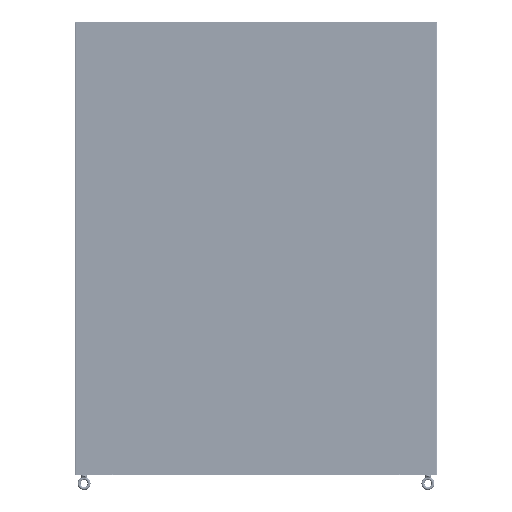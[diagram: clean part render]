
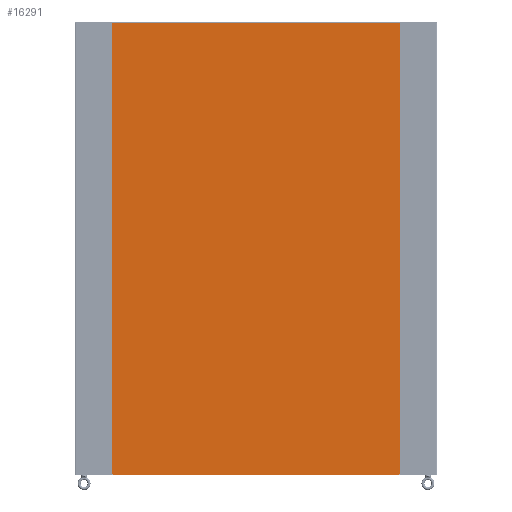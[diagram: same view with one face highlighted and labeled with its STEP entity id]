
A CAD part, left-side view. The second image highlights one B-rep face of the part: STEP entity #16291.
In plain terms, the highlighted planar face has unit normal (-1, 0, 0) as drawn and (0, 0, -1) by its records, which use the part's own axes.
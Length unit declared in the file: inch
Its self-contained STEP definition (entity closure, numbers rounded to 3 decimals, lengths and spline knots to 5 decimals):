
#16048=CARTESIAN_POINT('',(28.4375,44.8335,-0.104));
#16049=DIRECTION('',(0.,0.,-1.));
#16050=DIRECTION('',(0.,1.,0.));
#16051=AXIS2_PLACEMENT_3D('',#16048,#16049,#16050);
#16056=DIRECTION('',(-1.,0.,0.));
#16057=VECTOR('',#16056,56.875);
#16058=CARTESIAN_POINT('',(28.4375,44.896,-0.104));
#16059=LINE('',#16058,#16057);
#16063=CARTESIAN_POINT('',(-28.4375,44.8335,-0.104));
#16064=DIRECTION('',(0.,0.,-1.));
#16065=DIRECTION('',(-1.,0.,0.));
#16066=AXIS2_PLACEMENT_3D('',#16063,#16064,#16065);
#16071=DIRECTION('',(0.,-1.,0.));
#16072=VECTOR('',#16071,89.667);
#16073=CARTESIAN_POINT('',(-28.5,44.8335,-0.104));
#16074=LINE('',#16073,#16072);
#16078=CARTESIAN_POINT('',(-28.4375,-44.8335,-0.104));
#16079=DIRECTION('',(0.,0.,-1.));
#16080=DIRECTION('',(0.,-1.,0.));
#16081=AXIS2_PLACEMENT_3D('',#16078,#16079,#16080);
#16086=DIRECTION('',(1.,0.,0.));
#16087=VECTOR('',#16086,56.875);
#16088=CARTESIAN_POINT('',(-28.4375,-44.896,-0.104));
#16089=LINE('',#16088,#16087);
#16093=CARTESIAN_POINT('',(28.4375,-44.8335,-0.104));
#16094=DIRECTION('',(0.,0.,-1.));
#16095=DIRECTION('',(1.,0.,0.));
#16096=AXIS2_PLACEMENT_3D('',#16093,#16094,#16095);
#16101=DIRECTION('',(0.,1.,0.));
#16102=VECTOR('',#16101,89.667);
#16103=CARTESIAN_POINT('',(28.5,-44.8335,-0.104));
#16104=LINE('',#16103,#16102);
#16112=CARTESIAN_POINT('',(28.4375,44.896,-0.104));
#16113=VERTEX_POINT('',#16112);
#16114=CARTESIAN_POINT('',(28.5,44.8335,-0.104));
#16115=VERTEX_POINT('',#16114);
#16120=CARTESIAN_POINT('',(-28.5,44.8335,-0.104));
#16121=VERTEX_POINT('',#16120);
#16122=CARTESIAN_POINT('',(-28.4375,44.896,-0.104));
#16123=VERTEX_POINT('',#16122);
#16128=CARTESIAN_POINT('',(-28.4375,-44.896,-0.104));
#16129=VERTEX_POINT('',#16128);
#16130=CARTESIAN_POINT('',(-28.5,-44.8335,-0.104));
#16131=VERTEX_POINT('',#16130);
#16136=CARTESIAN_POINT('',(28.5,-44.8335,-0.104));
#16137=VERTEX_POINT('',#16136);
#16138=CARTESIAN_POINT('',(28.4375,-44.896,-0.104));
#16139=VERTEX_POINT('',#16138);
#16276=CARTESIAN_POINT('',(0.,0.,-0.104));
#16277=DIRECTION('',(0.,0.,1.));
#16278=DIRECTION('',(1.,0.,0.));
#16279=AXIS2_PLACEMENT_3D('',#16276,#16277,#16278);
#16280=PLANE('',#16279);
#16281=ORIENTED_EDGE('',*,*,#16172,.F.);
#16282=ORIENTED_EDGE('',*,*,#16188,.T.);
#16283=ORIENTED_EDGE('',*,*,#16201,.F.);
#16284=ORIENTED_EDGE('',*,*,#16216,.T.);
#16285=ORIENTED_EDGE('',*,*,#16229,.F.);
#16286=ORIENTED_EDGE('',*,*,#16244,.T.);
#16287=ORIENTED_EDGE('',*,*,#16257,.F.);
#16288=ORIENTED_EDGE('',*,*,#16269,.T.);
#16289=EDGE_LOOP('',(#16281,#16282,#16283,#16284,#16285,#16286,#16287,#16288));
#16290=FACE_OUTER_BOUND('',#16289,.F.);
#16052=CIRCLE('',#16051,0.0625);
#16067=CIRCLE('',#16066,0.0625);
#16082=CIRCLE('',#16081,0.0625);
#16097=CIRCLE('',#16096,0.0625);
#16172=EDGE_CURVE('',#16113,#16115,#16052,.T.);
#16188=EDGE_CURVE('',#16113,#16123,#16059,.T.);
#16201=EDGE_CURVE('',#16121,#16123,#16067,.T.);
#16216=EDGE_CURVE('',#16121,#16131,#16074,.T.);
#16229=EDGE_CURVE('',#16129,#16131,#16082,.T.);
#16244=EDGE_CURVE('',#16129,#16139,#16089,.T.);
#16257=EDGE_CURVE('',#16137,#16139,#16097,.T.);
#16269=EDGE_CURVE('',#16137,#16115,#16104,.T.);
#16291=ADVANCED_FACE('',(#16290),#16280,.F.);
